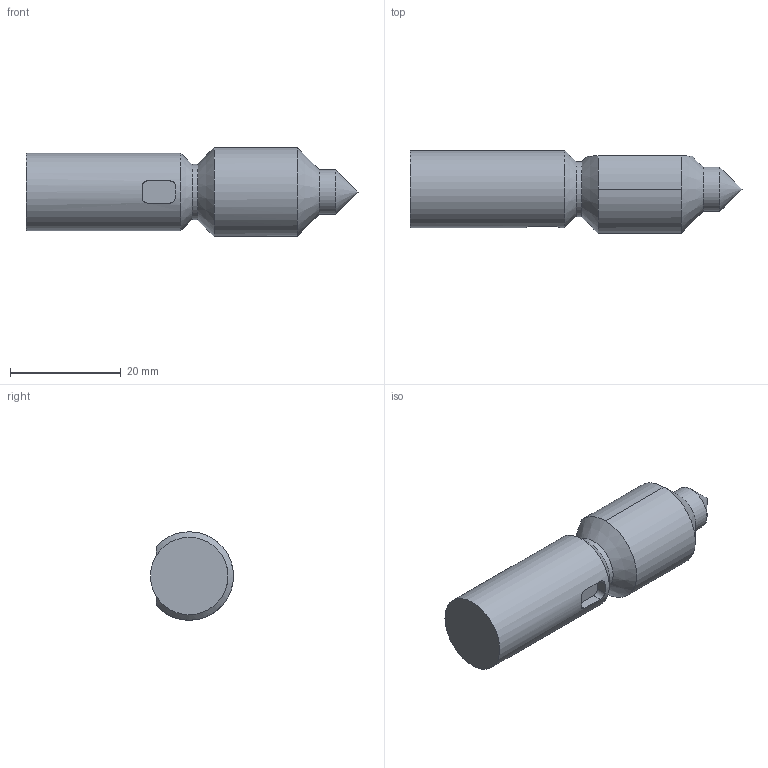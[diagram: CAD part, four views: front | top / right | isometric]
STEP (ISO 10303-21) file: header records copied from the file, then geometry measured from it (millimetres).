
FILE_DESCRIPTION(('HOOPS Exchange Step'),'2;1');
FILE_NAME('/private/var/mobile/Containers/Data/Application/6A221F3C-4013-4CF2-BF10-266E8049BE3B/tmp/export/temp_export.step','2019-09-11T18:26:52+03:00',('mobile'),('Shapr3D Limited'),'HOOPS Exchange 2018.1','Shapr3D','Authorized');
FILE_SCHEMA( ('AP203_CONFIGURATION_CONTROLLED_3D_DESIGN_OF_MECHANICAL_PARTS_AND_ASSEMBLIES_MIM_LF') );
Length unit declared in the file: millimetre
Products named in the file (1):  01
Bounding box: 60 x 15 x 16 mm (x, y, z)
Volume: 8440.9 mm3; surface area: 2814.7 mm2
Topology: 1 solids, 1 shells, 20 faces, 50 edges, 32 vertices
Faces by surface type: cylinder 9, plane 7, cone 4
Full cylindrical faces by diameter (mm): 8 x1, 10 x1, 14 x1
Entity records: 755 total; most frequent: CARTESIAN_POINT 249, DIRECTION 104, ORIENTED_EDGE 98, EDGE_CURVE 49, AXIS2_PLACEMENT_3D 40, VERTEX_POINT 32, VECTOR 24, LINE 24
